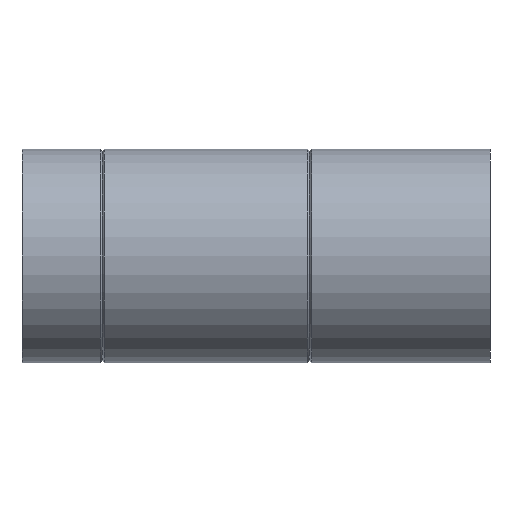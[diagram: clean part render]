
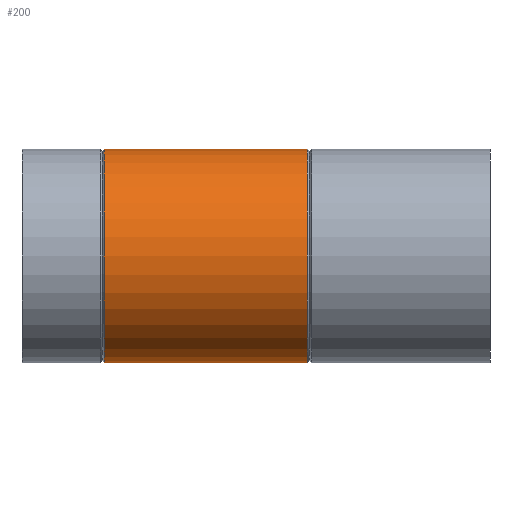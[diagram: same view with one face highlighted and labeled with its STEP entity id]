
A CAD part, left-side view. The second image highlights one B-rep face of the part: STEP entity #200.
In plain terms, the highlighted cylindrical face has radius 80 mm (diameter 160 mm), a full revolution.
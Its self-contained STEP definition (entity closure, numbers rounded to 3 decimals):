
#15=B_SPLINE_CURVE_WITH_KNOTS($,3,(#325,#326,#327,#328,#329,#330,#331,#332,
#333,#334,#335,#336,#337,#338,#339,#340,#341,#342,#343,#344,#345,#346,#347,
#348,#349,#350,#351,#352,#353,#354,#355,#356,#357,#358,#359,#360,#361,#362,
#363,#364,#365,#366,#367,#368,#369,#370,#371,#372,#373,#374,#375,#376,#377,
#378,#379,#380,#381,#382,#383,#384,#385,#386,#387,#388,#389,#390),
 .UNSPECIFIED.,.T.,.F.,(4,2,2,2,2,2,2,2,2,2,2,2,2,2,2,2,2,2,2,2,2,2,2,2,
2,2,2,2,2,2,2,2,4),(0.,1.099,2.198,3.297,
4.396,5.472,6.548,7.624,8.7,
9.776,10.852,11.929,13.005,14.104,
15.203,16.301,17.4,18.482,19.563,
20.645,21.726,22.802,23.877,24.952,
26.027,27.103,28.178,29.253,30.329,
31.41,32.492,33.573,34.655),
 .UNSPECIFIED.);
#17=CYLINDRICAL_SURFACE($,#222,80.);
#26=FACE_BOUND($,#63,.T.);
#27=FACE_BOUND($,#64,.T.);
#48=FACE_OUTER_BOUND($,#62,.T.);
#62=EDGE_LOOP($,(#145));
#63=EDGE_LOOP($,(#146));
#64=EDGE_LOOP($,(#147));
#94=CIRCLE($,#221,80.);
#95=CIRCLE($,#223,80.);
#109=VERTEX_POINT($,#319);
#110=VERTEX_POINT($,#322);
#111=VERTEX_POINT($,#324);
#126=EDGE_CURVE($,#109,#109,#94,.T.);
#127=EDGE_CURVE($,#110,#110,#95,.T.);
#128=EDGE_CURVE($,#111,#111,#15,.T.);
#145=ORIENTED_EDGE($,*,*,#127,.T.);
#146=ORIENTED_EDGE($,*,*,#128,.T.);
#147=ORIENTED_EDGE($,*,*,#126,.T.);
#200=ADVANCED_FACE($,(#48,#26,#27),#17,.T.);
#221=AXIS2_PLACEMENT_3D($,#320,#258,#259);
#222=AXIS2_PLACEMENT_3D($,#321,#260,#261);
#223=AXIS2_PLACEMENT_3D($,#323,#262,#263);
#258=DIRECTION('center_axis',(0.,-1.,0.));
#259=DIRECTION('ref_axis',(1.,0.,0.));
#260=DIRECTION('center_axis',(0.,1.,0.));
#261=DIRECTION('ref_axis',(1.,0.,0.));
#262=DIRECTION('center_axis',(0.,1.,0.));
#263=DIRECTION('ref_axis',(1.,0.,0.));
#319=CARTESIAN_POINT('',(80.,288.4,0.));
#320=CARTESIAN_POINT('Origin',(0.,288.4,0.));
#321=CARTESIAN_POINT('Origin',(0.,0.,0.));
#322=CARTESIAN_POINT('',(-80.,136.6,0.));
#323=CARTESIAN_POINT('Origin',(0.,136.6,0.));
#324=CARTESIAN_POINT('',(58.095,211.521,55.));
#325=CARTESIAN_POINT('Ctrl Pts',(58.095,211.521,55.));
#326=CARTESIAN_POINT('Ctrl Pts',(58.095,215.184,55.));
#327=CARTESIAN_POINT('Ctrl Pts',(58.451,218.895,54.63));
#328=CARTESIAN_POINT('Ctrl Pts',(59.794,226.163,53.157));
#329=CARTESIAN_POINT('Ctrl Pts',(60.775,229.722,52.055));
#330=CARTESIAN_POINT('Ctrl Pts',(63.101,236.493,49.21));
#331=CARTESIAN_POINT('Ctrl Pts',(64.444,239.71,47.464));
#332=CARTESIAN_POINT('Ctrl Pts',(67.206,245.659,43.466));
#333=CARTESIAN_POINT('Ctrl Pts',(68.623,248.389,41.212));
#334=CARTESIAN_POINT('Ctrl Pts',(71.258,253.19,36.462));
#335=CARTESIAN_POINT('Ctrl Pts',(72.58,255.451,33.796));
#336=CARTESIAN_POINT('Ctrl Pts',(75.03,259.488,27.939));
#337=CARTESIAN_POINT('Ctrl Pts',(76.156,261.264,24.748));
#338=CARTESIAN_POINT('Ctrl Pts',(78.023,264.154,18.017));
#339=CARTESIAN_POINT('Ctrl Pts',(78.765,265.271,14.47));
#340=CARTESIAN_POINT('Ctrl Pts',(79.754,266.751,7.255));
#341=CARTESIAN_POINT('Ctrl Pts',(80.,267.114,3.587));
#342=CARTESIAN_POINT('Ctrl Pts',(80.,267.114,-3.587));
#343=CARTESIAN_POINT('Ctrl Pts',(79.754,266.751,-7.255));
#344=CARTESIAN_POINT('Ctrl Pts',(78.765,265.271,-14.47));
#345=CARTESIAN_POINT('Ctrl Pts',(78.023,264.154,-18.017));
#346=CARTESIAN_POINT('Ctrl Pts',(76.156,261.264,-24.748));
#347=CARTESIAN_POINT('Ctrl Pts',(75.03,259.488,-27.939));
#348=CARTESIAN_POINT('Ctrl Pts',(72.58,255.451,-33.796));
#349=CARTESIAN_POINT('Ctrl Pts',(71.258,253.19,-36.462));
#350=CARTESIAN_POINT('Ctrl Pts',(68.623,248.389,-41.212));
#351=CARTESIAN_POINT('Ctrl Pts',(67.206,245.659,-43.466));
#352=CARTESIAN_POINT('Ctrl Pts',(64.444,239.71,-47.464));
#353=CARTESIAN_POINT('Ctrl Pts',(63.101,236.493,-49.21));
#354=CARTESIAN_POINT('Ctrl Pts',(60.775,229.722,-52.055));
#355=CARTESIAN_POINT('Ctrl Pts',(59.794,226.163,-53.157));
#356=CARTESIAN_POINT('Ctrl Pts',(58.451,218.895,-54.63));
#357=CARTESIAN_POINT('Ctrl Pts',(58.095,215.184,-55.));
#358=CARTESIAN_POINT('Ctrl Pts',(58.095,207.916,-55.));
#359=CARTESIAN_POINT('Ctrl Pts',(58.441,204.262,-54.641));
#360=CARTESIAN_POINT('Ctrl Pts',(59.761,197.11,-53.194));
#361=CARTESIAN_POINT('Ctrl Pts',(60.73,193.612,-52.108));
#362=CARTESIAN_POINT('Ctrl Pts',(63.038,186.972,-49.291));
#363=CARTESIAN_POINT('Ctrl Pts',(64.374,183.823,-47.558));
#364=CARTESIAN_POINT('Ctrl Pts',(67.127,178.016,-43.587));
#365=CARTESIAN_POINT('Ctrl Pts',(68.541,175.357,-41.347));
#366=CARTESIAN_POINT('Ctrl Pts',(71.19,170.656,-36.597));
#367=CARTESIAN_POINT('Ctrl Pts',(72.528,168.436,-33.911));
#368=CARTESIAN_POINT('Ctrl Pts',(75.002,164.483,-28.015));
#369=CARTESIAN_POINT('Ctrl Pts',(76.138,162.751,-24.806));
#370=CARTESIAN_POINT('Ctrl Pts',(78.018,159.94,-18.044));
#371=CARTESIAN_POINT('Ctrl Pts',(78.762,158.858,-14.485));
#372=CARTESIAN_POINT('Ctrl Pts',(79.754,157.426,-7.255));
#373=CARTESIAN_POINT('Ctrl Pts',(80.,157.076,-3.584));
#374=CARTESIAN_POINT('Ctrl Pts',(80.,157.076,3.584));
#375=CARTESIAN_POINT('Ctrl Pts',(79.754,157.426,7.255));
#376=CARTESIAN_POINT('Ctrl Pts',(78.762,158.858,14.485));
#377=CARTESIAN_POINT('Ctrl Pts',(78.018,159.94,18.044));
#378=CARTESIAN_POINT('Ctrl Pts',(76.138,162.751,24.806));
#379=CARTESIAN_POINT('Ctrl Pts',(75.002,164.483,28.015));
#380=CARTESIAN_POINT('Ctrl Pts',(72.528,168.436,33.911));
#381=CARTESIAN_POINT('Ctrl Pts',(71.19,170.656,36.597));
#382=CARTESIAN_POINT('Ctrl Pts',(68.541,175.357,41.347));
#383=CARTESIAN_POINT('Ctrl Pts',(67.127,178.016,43.587));
#384=CARTESIAN_POINT('Ctrl Pts',(64.374,183.823,47.558));
#385=CARTESIAN_POINT('Ctrl Pts',(63.038,186.972,49.291));
#386=CARTESIAN_POINT('Ctrl Pts',(60.73,193.612,52.108));
#387=CARTESIAN_POINT('Ctrl Pts',(59.761,197.11,53.194));
#388=CARTESIAN_POINT('Ctrl Pts',(58.441,204.262,54.641));
#389=CARTESIAN_POINT('Ctrl Pts',(58.095,207.916,55.));
#390=CARTESIAN_POINT('Ctrl Pts',(58.095,211.521,55.));
